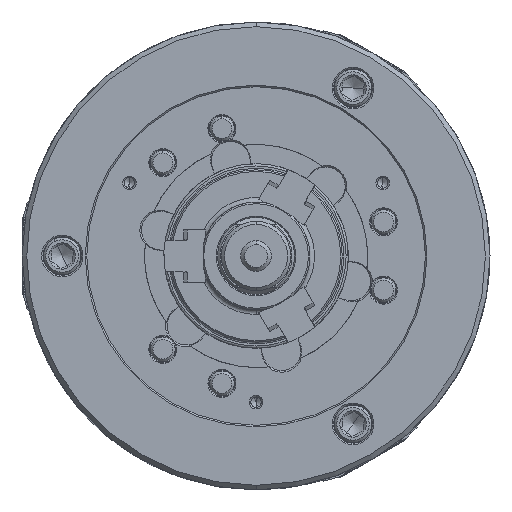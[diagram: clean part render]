
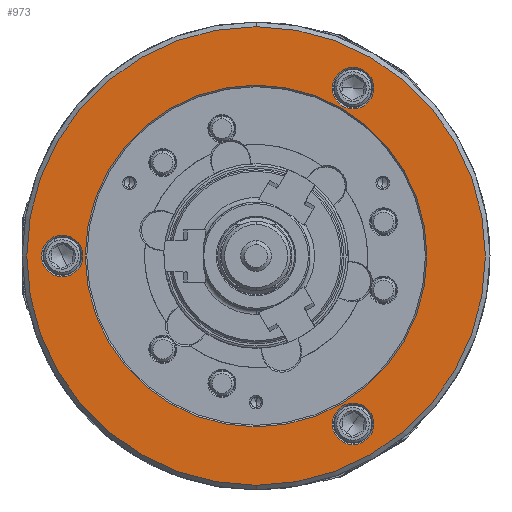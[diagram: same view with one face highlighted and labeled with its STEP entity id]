
A CAD part, left-side view. The second image highlights one B-rep face of the part: STEP entity #973.
In plain terms, the highlighted planar face has unit normal (-1, 0, 0).
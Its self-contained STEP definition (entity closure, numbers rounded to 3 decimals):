
#380 = CARTESIAN_POINT ( 'NONE',  ( -106., 0., 111. ) ) ;
#973 = ADVANCED_FACE ( 'NONE', ( #48010, #67092, #75684, #11724, #87931 ), #3084, .F. ) ;
#3084 = PLANE ( 'NONE',  #98229 ) ;
#3398 = VERTEX_POINT ( 'NONE', #6326 ) ;
#3440 = EDGE_CURVE ( 'NONE', #27071, #61562, #73040, .T. ) ;
#4603 = CIRCLE ( 'NONE', #116505, 149. ) ;
#6326 = CARTESIAN_POINT ( 'NONE',  ( -106., 126., 13.5 ) ) ;
#6689 = CARTESIAN_POINT ( 'NONE',  ( -106., 0., 0. ) ) ;
#6854 = EDGE_LOOP ( 'NONE', ( #111675, #56750 ) ) ;
#8609 = CARTESIAN_POINT ( 'NONE',  ( -106., 126., 0. ) ) ;
#8610 = DIRECTION ( 'NONE',  ( 1., 0., 0. ) ) ;
#9827 = DIRECTION ( 'NONE',  ( 0., 0., -1. ) ) ;
#11724 = FACE_OUTER_BOUND ( 'NONE', #51626, .T. ) ;
#13737 = EDGE_CURVE ( 'NONE', #68314, #116476, #119531, .T. ) ;
#19697 = AXIS2_PLACEMENT_3D ( 'NONE', #46715, #8610, #73196 ) ;
#19852 = EDGE_CURVE ( 'NONE', #69753, #40652, #72740, .T. ) ;
#21450 = DIRECTION ( 'NONE',  ( 0., 0., -1. ) ) ;
#21480 = EDGE_LOOP ( 'NONE', ( #101291, #84068 ) ) ;
#22236 = CIRCLE ( 'NONE', #102766, 13.5 ) ;
#24505 = DIRECTION ( 'NONE',  ( 1., 0., 0. ) ) ;
#27071 = VERTEX_POINT ( 'NONE', #380 ) ;
#27102 = DIRECTION ( 'NONE',  ( 0., 0., -1. ) ) ;
#29962 = EDGE_LOOP ( 'NONE', ( #91638, #94221 ) ) ;
#30151 = DIRECTION ( 'NONE',  ( 1., 0., 0. ) ) ;
#31313 = ORIENTED_EDGE ( 'NONE', *, *, #13737, .F. ) ;
#31670 = AXIS2_PLACEMENT_3D ( 'NONE', #54303, #102271, #93027 ) ;
#33144 = DIRECTION ( 'NONE',  ( 0., 0., -1. ) ) ;
#34950 = CARTESIAN_POINT ( 'NONE',  ( -106., -63., 109.119 ) ) ;
#35427 = AXIS2_PLACEMENT_3D ( 'NONE', #72104, #109592, #54881 ) ;
#35560 = DIRECTION ( 'NONE',  ( 1., 0., 0. ) ) ;
#36882 = DIRECTION ( 'NONE',  ( 1., 0., 0. ) ) ;
#38952 = DIRECTION ( 'NONE',  ( 0., 0., -1. ) ) ;
#40505 = CARTESIAN_POINT ( 'NONE',  ( -106., 0., 0. ) ) ;
#40652 = VERTEX_POINT ( 'NONE', #51997 ) ;
#40785 = CARTESIAN_POINT ( 'NONE',  ( -106., 126., -13.5 ) ) ;
#43829 = AXIS2_PLACEMENT_3D ( 'NONE', #80434, #50953, #88461 ) ;
#46074 = AXIS2_PLACEMENT_3D ( 'NONE', #86291, #85662, #38952 ) ;
#46715 = CARTESIAN_POINT ( 'NONE',  ( -106., -63., -109.119 ) ) ;
#48010 = FACE_BOUND ( 'NONE', #6854, .T. ) ;
#49192 = CARTESIAN_POINT ( 'NONE',  ( -106., 0., 149. ) ) ;
#49217 = CARTESIAN_POINT ( 'NONE',  ( -106., -111., 0. ) ) ;
#50953 = DIRECTION ( 'NONE',  ( 1., 0., 0. ) ) ;
#51626 = EDGE_LOOP ( 'NONE', ( #31313, #97573 ) ) ;
#51997 = CARTESIAN_POINT ( 'NONE',  ( -106., -63., -95.619 ) ) ;
#52648 = CIRCLE ( 'NONE', #72324, 13.5 ) ;
#54303 = CARTESIAN_POINT ( 'NONE',  ( -106., 0., 0. ) ) ;
#54881 = DIRECTION ( 'NONE',  ( 0., 0., -1. ) ) ;
#55246 = DIRECTION ( 'NONE',  ( 0., 0., -1. ) ) ;
#56749 = CARTESIAN_POINT ( 'NONE',  ( -106., -63., 95.619 ) ) ;
#56750 = ORIENTED_EDGE ( 'NONE', *, *, #80097, .T. ) ;
#58734 = EDGE_CURVE ( 'NONE', #61562, #27071, #104361, .T. ) ;
#58924 = VERTEX_POINT ( 'NONE', #56749 ) ;
#61562 = VERTEX_POINT ( 'NONE', #65850 ) ;
#65460 = CIRCLE ( 'NONE', #43829, 13.5 ) ;
#65828 = DIRECTION ( 'NONE',  ( 1., 0., 0. ) ) ;
#65850 = CARTESIAN_POINT ( 'NONE',  ( -106., 0., -111. ) ) ;
#67092 = FACE_BOUND ( 'NONE', #29962, .T. ) ;
#67965 = EDGE_CURVE ( 'NONE', #74288, #3398, #52648, .T. ) ;
#68314 = VERTEX_POINT ( 'NONE', #107560 ) ;
#69753 = VERTEX_POINT ( 'NONE', #93771 ) ;
#72104 = CARTESIAN_POINT ( 'NONE',  ( -106., 0., 0. ) ) ;
#72324 = AXIS2_PLACEMENT_3D ( 'NONE', #73243, #65828, #27102 ) ;
#72740 = CIRCLE ( 'NONE', #19697, 13.5 ) ;
#73040 = CIRCLE ( 'NONE', #35427, 111. ) ;
#73196 = DIRECTION ( 'NONE',  ( 0., 0., -1. ) ) ;
#73243 = CARTESIAN_POINT ( 'NONE',  ( -106., 126., 0. ) ) ;
#74288 = VERTEX_POINT ( 'NONE', #40785 ) ;
#75684 = FACE_BOUND ( 'NONE', #21480, .T. ) ;
#75975 = EDGE_CURVE ( 'NONE', #3398, #74288, #22236, .T. ) ;
#76070 = EDGE_CURVE ( 'NONE', #116476, #68314, #4603, .T. ) ;
#76233 = EDGE_CURVE ( 'NONE', #40652, #69753, #65460, .T. ) ;
#77406 = DIRECTION ( 'NONE',  ( 1., 0., 0. ) ) ;
#78115 = ORIENTED_EDGE ( 'NONE', *, *, #58734, .T. ) ;
#80097 = EDGE_CURVE ( 'NONE', #58924, #84386, #85038, .T. ) ;
#80434 = CARTESIAN_POINT ( 'NONE',  ( -106., -63., -109.119 ) ) ;
#83346 = ORIENTED_EDGE ( 'NONE', *, *, #3440, .T. ) ;
#84068 = ORIENTED_EDGE ( 'NONE', *, *, #67965, .T. ) ;
#84386 = VERTEX_POINT ( 'NONE', #104391 ) ;
#85038 = CIRCLE ( 'NONE', #108642, 13.5 ) ;
#85662 = DIRECTION ( 'NONE',  ( 1., 0., 0. ) ) ;
#86291 = CARTESIAN_POINT ( 'NONE',  ( -106., -63., 109.119 ) ) ;
#87931 = FACE_BOUND ( 'NONE', #118644, .T. ) ;
#88461 = DIRECTION ( 'NONE',  ( 0., 0., -1. ) ) ;
#91638 = ORIENTED_EDGE ( 'NONE', *, *, #76233, .T. ) ;
#93027 = DIRECTION ( 'NONE',  ( 0., 0., -1. ) ) ;
#93771 = CARTESIAN_POINT ( 'NONE',  ( -106., -63., -122.619 ) ) ;
#94221 = ORIENTED_EDGE ( 'NONE', *, *, #19852, .T. ) ;
#95141 = CIRCLE ( 'NONE', #46074, 13.5 ) ;
#97573 = ORIENTED_EDGE ( 'NONE', *, *, #76070, .F. ) ;
#98229 = AXIS2_PLACEMENT_3D ( 'NONE', #49217, #30151, #113794 ) ;
#101291 = ORIENTED_EDGE ( 'NONE', *, *, #75975, .T. ) ;
#102271 = DIRECTION ( 'NONE',  ( 1., 0., 0. ) ) ;
#102766 = AXIS2_PLACEMENT_3D ( 'NONE', #8609, #36882, #9827 ) ;
#104361 = CIRCLE ( 'NONE', #31670, 111. ) ;
#104391 = CARTESIAN_POINT ( 'NONE',  ( -106., -63., 122.619 ) ) ;
#107560 = CARTESIAN_POINT ( 'NONE',  ( -106., 0., -149. ) ) ;
#108642 = AXIS2_PLACEMENT_3D ( 'NONE', #34950, #24505, #33144 ) ;
#109592 = DIRECTION ( 'NONE',  ( 1., 0., 0. ) ) ;
#111675 = ORIENTED_EDGE ( 'NONE', *, *, #118576, .T. ) ;
#113794 = DIRECTION ( 'NONE',  ( 0., 0., -1. ) ) ;
#116476 = VERTEX_POINT ( 'NONE', #49192 ) ;
#116505 = AXIS2_PLACEMENT_3D ( 'NONE', #40505, #77406, #21450 ) ;
#117600 = AXIS2_PLACEMENT_3D ( 'NONE', #6689, #35560, #55246 ) ;
#118576 = EDGE_CURVE ( 'NONE', #84386, #58924, #95141, .T. ) ;
#118644 = EDGE_LOOP ( 'NONE', ( #83346, #78115 ) ) ;
#119531 = CIRCLE ( 'NONE', #117600, 149. ) ;
